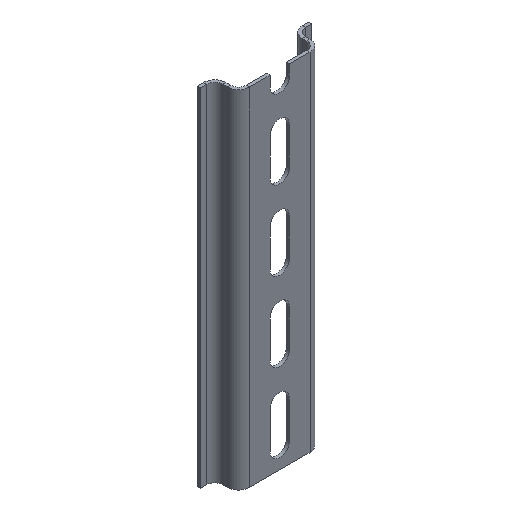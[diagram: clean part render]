
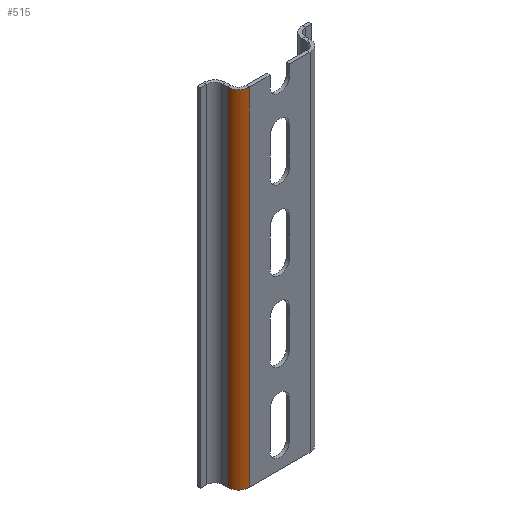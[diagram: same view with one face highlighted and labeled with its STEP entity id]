
A CAD part, isometric view. The second image highlights one B-rep face of the part: STEP entity #515.
In plain terms, the highlighted cylindrical face has radius 3.5 mm (diameter 7 mm), a partial arc.
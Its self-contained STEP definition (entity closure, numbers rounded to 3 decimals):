
#55 = AXIS2_PLACEMENT_3D ( 'NONE', #1272, #1139, #1277 ) ;
#56 = DIRECTION ( 'NONE',  ( 1., 0., 0. ) ) ;
#65 = EDGE_LOOP ( 'NONE', ( #1451, #274, #285, #522 ) ) ;
#89 = VERTEX_POINT ( 'NONE', #286 ) ;
#92 = DIRECTION ( 'NONE',  ( 0., 0., -1. ) ) ;
#108 = CARTESIAN_POINT ( 'NONE',  ( -9.6, 2.5, 110. ) ) ;
#155 = AXIS2_PLACEMENT_3D ( 'NONE', #1748, #738, #56 ) ;
#176 = EDGE_CURVE ( 'NONE', #367, #242, #637, .T. ) ;
#212 = CARTESIAN_POINT ( 'NONE',  ( -9.6, -1., 110. ) ) ;
#242 = VERTEX_POINT ( 'NONE', #624 ) ;
#274 = ORIENTED_EDGE ( 'NONE', *, *, #176, .F. ) ;
#285 = ORIENTED_EDGE ( 'NONE', *, *, #1706, .T. ) ;
#286 = CARTESIAN_POINT ( 'NONE',  ( -13.1, 2.5, 110. ) ) ;
#367 = VERTEX_POINT ( 'NONE', #212 ) ;
#376 = CARTESIAN_POINT ( 'NONE',  ( -13.1, 2.5, 0. ) ) ;
#392 = VERTEX_POINT ( 'NONE', #376 ) ;
#465 = VECTOR ( 'NONE', #92, 1000. ) ;
#515 = ADVANCED_FACE ( 'NONE', ( #1370 ), #1660, .T. ) ;
#522 = ORIENTED_EDGE ( 'NONE', *, *, #1364, .T. ) ;
#579 = CARTESIAN_POINT ( 'NONE',  ( -9.6, -1., 110. ) ) ;
#624 = CARTESIAN_POINT ( 'NONE',  ( -9.6, -1., 0. ) ) ;
#637 = LINE ( 'NONE', #579, #1634 ) ;
#651 = EDGE_CURVE ( 'NONE', #242, #392, #947, .T. ) ;
#654 = CARTESIAN_POINT ( 'NONE',  ( -13.1, 2.5, 110. ) ) ;
#670 = DIRECTION ( 'NONE',  ( 0., 0., -1. ) ) ;
#738 = DIRECTION ( 'NONE',  ( 0., 0., -1. ) ) ;
#808 = AXIS2_PLACEMENT_3D ( 'NONE', #108, #670, #1642 ) ;
#947 = CIRCLE ( 'NONE', #55, 3.5 ) ;
#1139 = DIRECTION ( 'NONE',  ( 0., 0., -1. ) ) ;
#1200 = LINE ( 'NONE', #654, #465 ) ;
#1272 = CARTESIAN_POINT ( 'NONE',  ( -9.6, 2.5, 0. ) ) ;
#1277 = DIRECTION ( 'NONE',  ( 1., 0., 0. ) ) ;
#1285 = DIRECTION ( 'NONE',  ( 0., 0., -1. ) ) ;
#1364 = EDGE_CURVE ( 'NONE', #89, #392, #1200, .T. ) ;
#1370 = FACE_OUTER_BOUND ( 'NONE', #65, .T. ) ;
#1451 = ORIENTED_EDGE ( 'NONE', *, *, #651, .F. ) ;
#1581 = CIRCLE ( 'NONE', #155, 3.5 ) ;
#1634 = VECTOR ( 'NONE', #1285, 1000. ) ;
#1642 = DIRECTION ( 'NONE',  ( -1., 0., 0. ) ) ;
#1660 = CYLINDRICAL_SURFACE ( 'NONE', #808, 3.5 ) ;
#1706 = EDGE_CURVE ( 'NONE', #367, #89, #1581, .T. ) ;
#1748 = CARTESIAN_POINT ( 'NONE',  ( -9.6, 2.5, 110. ) ) ;
